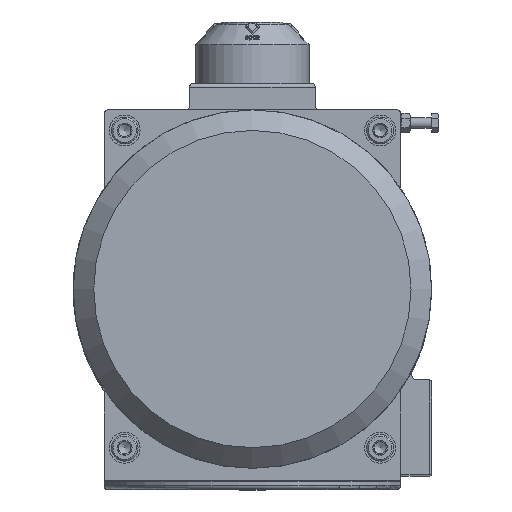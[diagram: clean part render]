
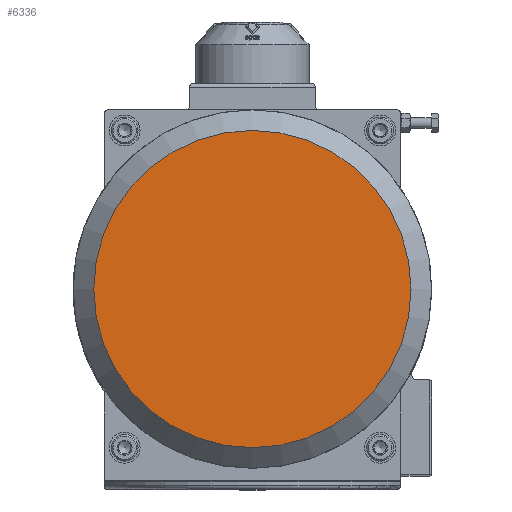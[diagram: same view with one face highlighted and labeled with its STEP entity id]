
A CAD part, top view. The second image highlights one B-rep face of the part: STEP entity #6336.
In plain terms, the highlighted planar face has unit normal (0, 0, 1).
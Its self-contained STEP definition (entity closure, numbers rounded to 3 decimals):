
#6336=ADVANCED_FACE('',(#14002),#14004,.T.);
#14002=FACE_BOUND('',#14003,.T.);
#14003=EDGE_LOOP('',(#21060));
#14004=PLANE('',#14005);
#14005=AXIS2_PLACEMENT_3D('',#14006,#14007,#14008);
#14006=CARTESIAN_POINT('',(0.,0.,229.));
#14007=DIRECTION('',(0.,0.,1.));
#14008=DIRECTION('',(1.,0.,0.));
#21060=ORIENTED_EDGE('',*,*,#24453,.T.);
#24453=EDGE_CURVE('',#28257,#28257,#28258,.T.);
#28257=VERTEX_POINT('',#47711);
#28258=CIRCLE('',#47712,77.);
#47711=CARTESIAN_POINT('',(77.,0.,229.));
#47712=AXIS2_PLACEMENT_3D('',#47713,#47714,#47715);
#47713=CARTESIAN_POINT('',(0.,0.,229.));
#47714=DIRECTION('',(0.,0.,1.));
#47715=DIRECTION('',(1.,0.,0.));
